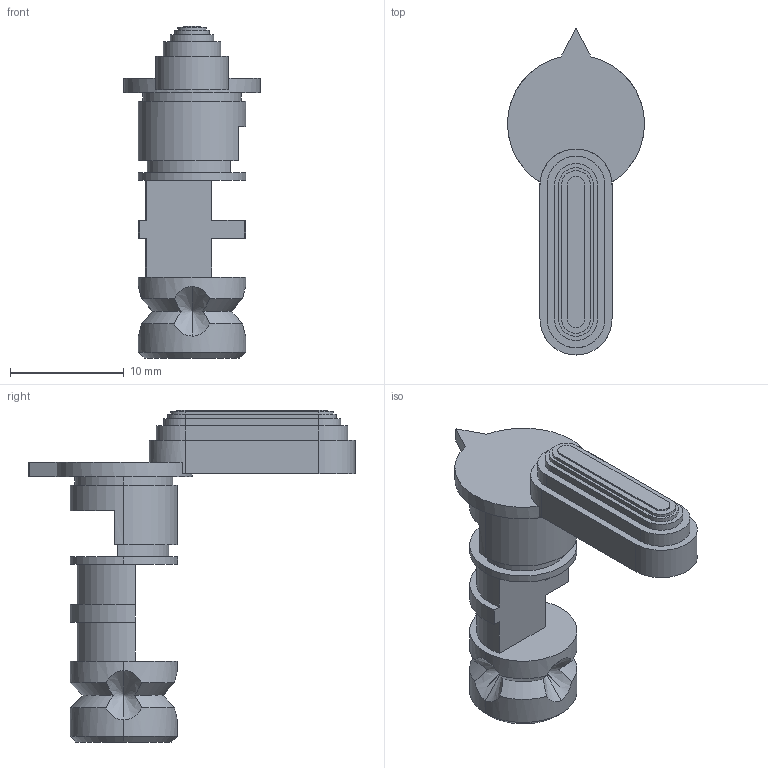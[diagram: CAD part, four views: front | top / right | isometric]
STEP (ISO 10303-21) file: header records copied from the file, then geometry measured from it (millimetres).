
FILE_DESCRIPTION((''),'2;1');
FILE_NAME('SELECTOR','2005-12-23T',('kevin'),(''),'PRO/ENGINEER BY PARAMETRIC TECHNOLOGY CORPORATION, 2001150','PRO/ENGINEER BY PARAMETRIC TECHNOLOGY CORPORATION, 2001150','');
FILE_SCHEMA(('CONFIG_CONTROL_DESIGN'));
Length unit declared in the file: inch
Products named in the file (1): SELECTOR
Bounding box: 12.06 x 28.71 x 29.24 mm (x, y, z)
Volume: 1654 mm3; surface area: 1520.6 mm2
Topology: 1 solids, 1 shells, 78 faces, 201 edges, 129 vertices
Faces by surface type: plane 36, cylinder 28, cone 14
Entity records: 2539 total; most frequent: CARTESIAN_POINT 605, DIRECTION 396, ORIENTED_EDGE 390, EDGE_CURVE 195, AXIS2_PLACEMENT_3D 147, VERTEX_POINT 129, VECTOR 102, LINE 102
